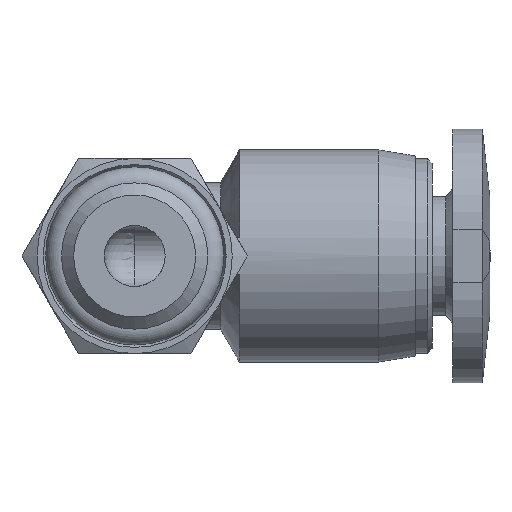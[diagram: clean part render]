
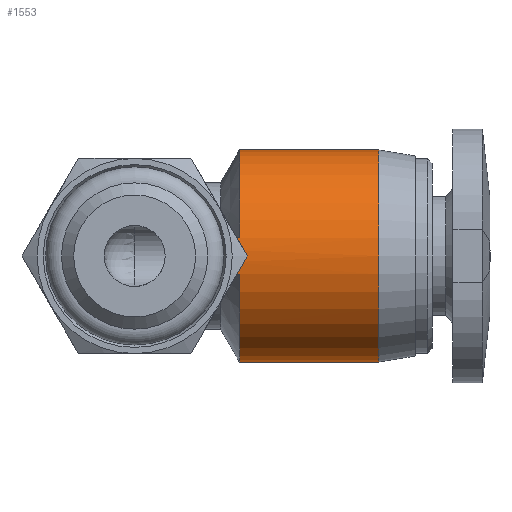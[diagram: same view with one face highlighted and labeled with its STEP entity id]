
A CAD part, front view. The second image highlights one B-rep face of the part: STEP entity #1553.
In plain terms, the highlighted cylindrical face has radius 4.35 mm (diameter 8.7 mm), a full revolution.
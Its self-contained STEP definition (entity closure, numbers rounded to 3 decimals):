
#145=CARTESIAN_POINT('',(4.3,9.135,0.75));
#146=VERTEX_POINT('',#145);
#285=CARTESIAN_POINT('',(4.3,9.135,-0.75));
#286=VERTEX_POINT('',#285);
#341=CARTESIAN_POINT('',(4.3,9.2,0.0));
#342=VERTEX_POINT('',#341);
#343=CARTESIAN_POINT('',(4.3,4.85,0.0));
#344=DIRECTION('',(1.0,0.,0.0));
#345=DIRECTION('',(0.,1.0,0.0));
#346=AXIS2_PLACEMENT_3D('',#343,#344,#345);
#347=CIRCLE('',#346,4.35);
#348=EDGE_CURVE('',#342,#146,#347,.T.);
#350=CARTESIAN_POINT('',(4.3,4.85,0.0));
#351=DIRECTION('',(1.0,0.,0.0));
#352=DIRECTION('',(0.,1.0,0.0));
#353=AXIS2_PLACEMENT_3D('',#350,#351,#352);
#354=CIRCLE('',#353,4.35);
#355=EDGE_CURVE('',#286,#342,#354,.T.);
#1375=CARTESIAN_POINT('',(4.3,0.565,-0.75));
#1376=VERTEX_POINT('',#1375);
#1392=CARTESIAN_POINT('',(3.929,0.565,-0.75));
#1393=VERTEX_POINT('',#1392);
#1394=CARTESIAN_POINT('',(4.3,0.565,-0.75));
#1395=DIRECTION('',(-1.0,0.0,0.0));
#1396=VECTOR('',#1395,0.371);
#1397=LINE('',#1394,#1396);
#1398=EDGE_CURVE('',#1376,#1393,#1397,.T.);
#1447=CARTESIAN_POINT('',(4.3,0.565,0.75));
#1448=VERTEX_POINT('',#1447);
#1493=CARTESIAN_POINT('',(3.929,0.565,0.75));
#1494=VERTEX_POINT('',#1493);
#1501=CARTESIAN_POINT('',(4.3,0.565,0.75));
#1502=DIRECTION('',(-1.0,0.0,0.0));
#1503=VECTOR('',#1502,0.371);
#1504=LINE('',#1501,#1503);
#1505=EDGE_CURVE('',#1448,#1494,#1504,.T.);
#1510=CARTESIAN_POINT('',(4.3,4.85,0.0));
#1511=DIRECTION('',(-1.0,0.0,0.0));
#1512=DIRECTION('',(0.0,-0.985,0.172));
#1513=AXIS2_PLACEMENT_3D('',#1510,#1511,#1512);
#1514=CYLINDRICAL_SURFACE('',#1513,4.35);
#1515=CARTESIAN_POINT('',(10.,9.2,0.0));
#1516=VERTEX_POINT('',#1515);
#1517=CARTESIAN_POINT('',(10.,4.85,0.0));
#1518=DIRECTION('',(1.0,0.,0.0));
#1519=DIRECTION('',(0.,1.0,0.0));
#1520=AXIS2_PLACEMENT_3D('',#1517,#1518,#1519);
#1521=CIRCLE('',#1520,4.35);
#1522=EDGE_CURVE('',#1516,#1516,#1521,.T.);
#1523=ORIENTED_EDGE('',*,*,#1522,.F.);
#1524=EDGE_LOOP('',(#1523));
#1525=FACE_OUTER_BOUND('',#1524,.T.);
#1526=CARTESIAN_POINT('',(3.929,0.565,-0.75));
#1527=CARTESIAN_POINT('',(4.024,0.478,-0.255));
#1528=CARTESIAN_POINT('',(4.024,0.478,0.255));
#1529=CARTESIAN_POINT('',(3.929,0.565,0.75));
#1530=B_SPLINE_CURVE_WITH_KNOTS('',3,(#1526,#1527,#1528,#1529),.UNSPECIFIED.,.F.,.U.,(4,4),(0.606,0.756),.UNSPECIFIED.);
#1531=EDGE_CURVE('',#1393,#1494,#1530,.T.);
#1532=ORIENTED_EDGE('',*,*,#1531,.F.);
#1533=ORIENTED_EDGE('',*,*,#1398,.F.);
#1534=CARTESIAN_POINT('',(4.3,4.85,0.0));
#1535=DIRECTION('',(1.0,0.,0.0));
#1536=DIRECTION('',(0.,1.0,0.0));
#1537=AXIS2_PLACEMENT_3D('',#1534,#1535,#1536);
#1538=CIRCLE('',#1537,4.35);
#1539=EDGE_CURVE('',#1376,#286,#1538,.T.);
#1540=ORIENTED_EDGE('',*,*,#1539,.T.);
#1541=ORIENTED_EDGE('',*,*,#355,.T.);
#1542=ORIENTED_EDGE('',*,*,#348,.T.);
#1543=CARTESIAN_POINT('',(4.3,4.85,0.0));
#1544=DIRECTION('',(1.0,0.,0.0));
#1545=DIRECTION('',(0.,1.0,0.0));
#1546=AXIS2_PLACEMENT_3D('',#1543,#1544,#1545);
#1547=CIRCLE('',#1546,4.35);
#1548=EDGE_CURVE('',#146,#1448,#1547,.T.);
#1549=ORIENTED_EDGE('',*,*,#1548,.T.);
#1550=ORIENTED_EDGE('',*,*,#1505,.T.);
#1551=EDGE_LOOP('',(#1532,#1533,#1540,#1541,#1542,#1549,#1550));
#1552=FACE_BOUND('',#1551,.T.);
#1553=ADVANCED_FACE('',(#1525,#1552),#1514,.T.);
